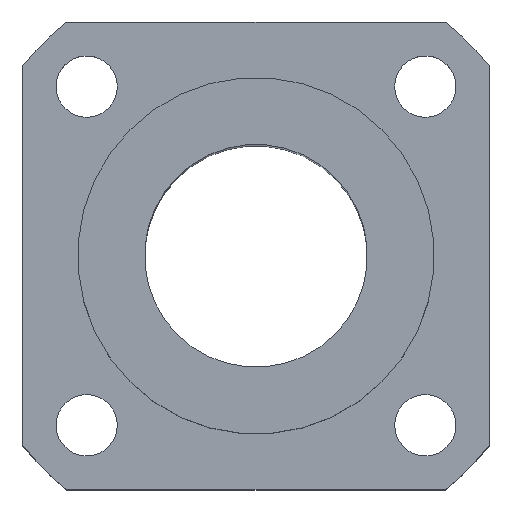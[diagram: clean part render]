
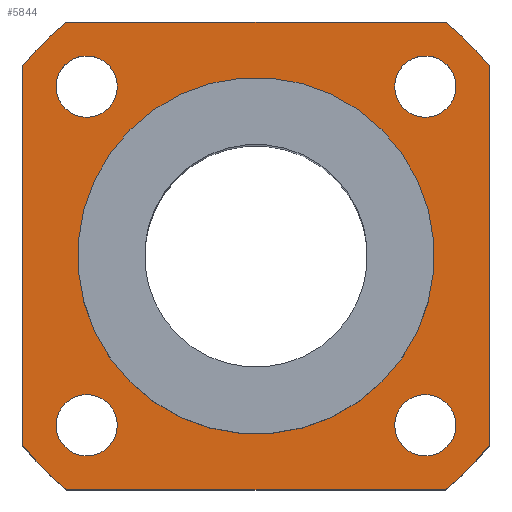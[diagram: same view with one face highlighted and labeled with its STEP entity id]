
A CAD part, top view. The second image highlights one B-rep face of the part: STEP entity #5844.
In plain terms, the highlighted planar face has unit normal (0, 0, 1).
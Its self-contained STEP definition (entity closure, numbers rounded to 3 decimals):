
#111=CIRCLE('',#6208,27.);
#112=CIRCLE('',#6210,27.);
#113=CIRCLE('',#6212,27.);
#114=CIRCLE('',#6214,27.);
#115=CIRCLE('',#6216,2.75);
#116=CIRCLE('',#6217,2.75);
#117=CIRCLE('',#6218,2.75);
#118=CIRCLE('',#6219,2.75);
#119=CIRCLE('',#6220,16.);
#538=ORIENTED_EDGE('',*,*,#2222,.F.);
#539=ORIENTED_EDGE('',*,*,#2223,.F.);
#540=ORIENTED_EDGE('',*,*,#2224,.F.);
#541=ORIENTED_EDGE('',*,*,#2225,.F.);
#542=ORIENTED_EDGE('',*,*,#2226,.T.);
#543=ORIENTED_EDGE('',*,*,#2214,.T.);
#544=ORIENTED_EDGE('',*,*,#2227,.T.);
#545=ORIENTED_EDGE('',*,*,#2210,.T.);
#546=ORIENTED_EDGE('',*,*,#2228,.T.);
#547=ORIENTED_EDGE('',*,*,#2220,.T.);
#548=ORIENTED_EDGE('',*,*,#2229,.T.);
#549=ORIENTED_EDGE('',*,*,#2217,.T.);
#550=ORIENTED_EDGE('',*,*,#2230,.T.);
#2210=EDGE_CURVE('',#3054,#3055,#111,.T.);
#2214=EDGE_CURVE('',#3057,#3056,#112,.T.);
#2217=EDGE_CURVE('',#3059,#3058,#113,.T.);
#2220=EDGE_CURVE('',#3061,#3060,#114,.T.);
#2222=EDGE_CURVE('',#3062,#3062,#115,.T.);
#2223=EDGE_CURVE('',#3063,#3063,#116,.T.);
#2224=EDGE_CURVE('',#3064,#3064,#117,.T.);
#2225=EDGE_CURVE('',#3065,#3065,#118,.T.);
#2226=EDGE_CURVE('',#3066,#3066,#119,.F.);
#2227=EDGE_CURVE('',#3056,#3054,#3572,.T.);
#2228=EDGE_CURVE('',#3055,#3061,#3573,.T.);
#2229=EDGE_CURVE('',#3060,#3059,#3574,.T.);
#2230=EDGE_CURVE('',#3058,#3057,#3575,.T.);
#3054=VERTEX_POINT('',#9230);
#3055=VERTEX_POINT('',#9231);
#3056=VERTEX_POINT('',#9236);
#3057=VERTEX_POINT('',#9238);
#3058=VERTEX_POINT('',#9242);
#3059=VERTEX_POINT('',#9244);
#3060=VERTEX_POINT('',#9248);
#3061=VERTEX_POINT('',#9250);
#3062=VERTEX_POINT('',#9254);
#3063=VERTEX_POINT('',#9256);
#3064=VERTEX_POINT('',#9258);
#3065=VERTEX_POINT('',#9260);
#3066=VERTEX_POINT('',#9262);
#3572=LINE('',#9263,#4256);
#3573=LINE('',#9264,#4257);
#3574=LINE('',#9265,#4258);
#3575=LINE('',#9266,#4259);
#4256=VECTOR('',#6771,1000.);
#4257=VECTOR('',#6772,1000.);
#4258=VECTOR('',#6773,1000.);
#4259=VECTOR('',#6774,1000.);
#4781=EDGE_LOOP('',(#538));
#4782=EDGE_LOOP('',(#539));
#4783=EDGE_LOOP('',(#540));
#4784=EDGE_LOOP('',(#541));
#4785=EDGE_LOOP('',(#542));
#4786=EDGE_LOOP('',(#543,#544,#545,#546,#547,#548,#549,#550));
#5203=FACE_BOUND('',#4781,.T.);
#5204=FACE_BOUND('',#4782,.T.);
#5205=FACE_BOUND('',#4783,.T.);
#5206=FACE_BOUND('',#4784,.T.);
#5207=FACE_BOUND('',#4785,.T.);
#5208=FACE_BOUND('',#4786,.T.);
#5577=PLANE('',#6215);
#5844=ADVANCED_FACE('',(#5203,#5204,#5205,#5206,#5207,#5208),#5577,.T.);
#6208=AXIS2_PLACEMENT_3D('',#9229,#6737,#6738);
#6210=AXIS2_PLACEMENT_3D('',#9237,#6744,#6745);
#6212=AXIS2_PLACEMENT_3D('',#9243,#6750,#6751);
#6214=AXIS2_PLACEMENT_3D('',#9249,#6756,#6757);
#6215=AXIS2_PLACEMENT_3D('',#9252,#6759,#6760);
#6216=AXIS2_PLACEMENT_3D('',#9253,#6761,#6762);
#6217=AXIS2_PLACEMENT_3D('',#9255,#6763,#6764);
#6218=AXIS2_PLACEMENT_3D('',#9257,#6765,#6766);
#6219=AXIS2_PLACEMENT_3D('',#9259,#6767,#6768);
#6220=AXIS2_PLACEMENT_3D('',#9261,#6769,#6770);
#6737=DIRECTION('',(0.,0.,1.));
#6738=DIRECTION('',(0.707,-0.707,0.));
#6744=DIRECTION('',(0.,0.,1.));
#6745=DIRECTION('',(0.707,-0.707,0.));
#6750=DIRECTION('',(0.,0.,1.));
#6751=DIRECTION('',(0.707,-0.707,0.));
#6756=DIRECTION('',(0.,0.,1.));
#6757=DIRECTION('',(0.707,-0.707,0.));
#6759=DIRECTION('',(0.,0.,1.));
#6760=DIRECTION('',(0.707,-0.707,0.));
#6761=DIRECTION('',(0.,0.,1.));
#6762=DIRECTION('',(0.707,-0.707,0.));
#6763=DIRECTION('',(0.,0.,1.));
#6764=DIRECTION('',(0.707,-0.707,0.));
#6765=DIRECTION('',(0.,0.,1.));
#6766=DIRECTION('',(0.707,-0.707,0.));
#6767=DIRECTION('',(0.,0.,1.));
#6768=DIRECTION('',(0.707,-0.707,0.));
#6769=DIRECTION('',(0.,0.,1.));
#6770=DIRECTION('',(0.707,-0.707,0.));
#6771=DIRECTION('',(0.,1.,0.));
#6772=DIRECTION('',(-1.,0.,0.));
#6773=DIRECTION('',(0.,-1.,0.));
#6774=DIRECTION('',(1.,0.,0.));
#9229=CARTESIAN_POINT('',(0.,0.,0.));
#9230=CARTESIAN_POINT('',(21.,16.971,0.));
#9231=CARTESIAN_POINT('',(16.971,21.,0.));
#9236=CARTESIAN_POINT('',(21.,-16.971,0.));
#9237=CARTESIAN_POINT('',(0.,0.,0.));
#9238=CARTESIAN_POINT('',(16.971,-21.,0.));
#9242=CARTESIAN_POINT('',(-16.971,-21.,0.));
#9243=CARTESIAN_POINT('',(0.,0.,0.));
#9244=CARTESIAN_POINT('',(-21.,-16.971,0.));
#9248=CARTESIAN_POINT('',(-21.,16.971,0.));
#9249=CARTESIAN_POINT('',(0.,0.,0.));
#9250=CARTESIAN_POINT('',(-16.971,21.,0.));
#9252=CARTESIAN_POINT('',(0.,0.,0.));
#9253=CARTESIAN_POINT('',(15.203,15.203,0.));
#9254=CARTESIAN_POINT('',(17.147,13.258,0.));
#9255=CARTESIAN_POINT('',(-15.203,15.203,0.));
#9256=CARTESIAN_POINT('',(-13.258,13.258,0.));
#9257=CARTESIAN_POINT('',(-15.203,-15.203,0.));
#9258=CARTESIAN_POINT('',(-13.258,-17.147,0.));
#9259=CARTESIAN_POINT('',(15.203,-15.203,0.));
#9260=CARTESIAN_POINT('',(17.147,-17.147,0.));
#9261=CARTESIAN_POINT('',(0.,0.,0.));
#9262=CARTESIAN_POINT('',(11.314,-11.314,0.));
#9263=CARTESIAN_POINT('',(21.,0.,0.));
#9264=CARTESIAN_POINT('',(0.,21.,0.));
#9265=CARTESIAN_POINT('',(-21.,0.,0.));
#9266=CARTESIAN_POINT('',(0.,-21.,0.));
